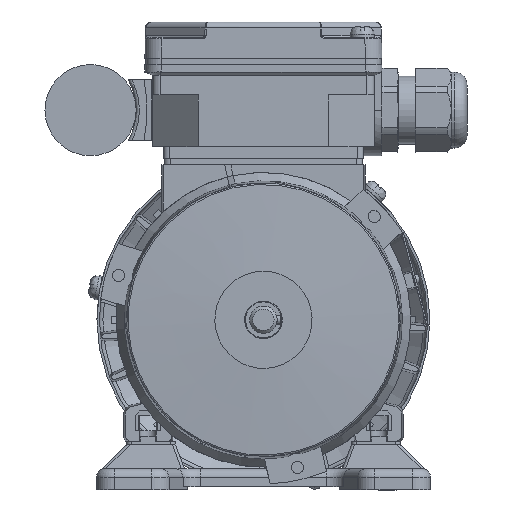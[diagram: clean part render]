
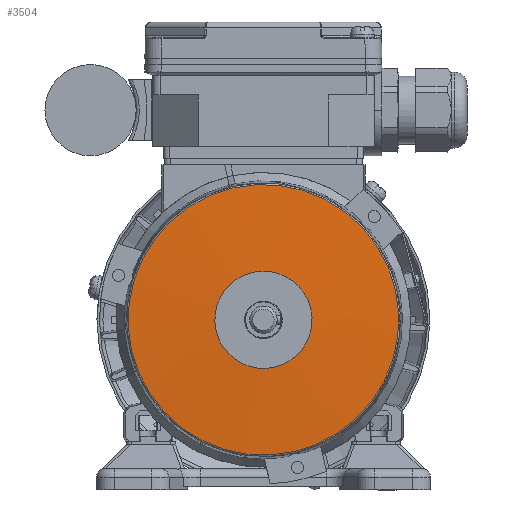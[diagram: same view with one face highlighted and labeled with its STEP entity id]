
A CAD part, left-side view. The second image highlights one B-rep face of the part: STEP entity #3504.
In plain terms, the highlighted conical face has half-angle 87.039 degrees and reference radius 16 mm.
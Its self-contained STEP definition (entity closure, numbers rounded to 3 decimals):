
#3504 = ADVANCED_FACE( '', ( #7741, #7742 ), #7743, .T. );
#7741 = FACE_OUTER_BOUND( '', #14526, .T. );
#7742 = FACE_BOUND( '', #14527, .T. );
#7743 = CONICAL_SURFACE( '', #14528, 16., 1.519 );
#14526 = EDGE_LOOP( '', ( #27139 ) );
#14527 = EDGE_LOOP( '', ( #27140 ) );
#14528 = AXIS2_PLACEMENT_3D( '', #27141, #27142, #27143 );
#27139 = ORIENTED_EDGE( '', *, *, #40347, .T. );
#27140 = ORIENTED_EDGE( '', *, *, #40348, .F. );
#27141 = CARTESIAN_POINT( '', ( 0., 1., 0. ) );
#27142 = DIRECTION( '', ( 0., 1., 0. ) );
#27143 = DIRECTION( '', ( 0., 0., 1. ) );
#40347 = EDGE_CURVE( '', #49224, #49224, #49225, .T. );
#40348 = EDGE_CURVE( '', #49226, #49226, #49227, .T. );
#49224 = VERTEX_POINT( '', #63386 );
#49225 = CIRCLE( '', #63387, 44.539 );
#49226 = VERTEX_POINT( '', #63388 );
#49227 = CIRCLE( '', #63389, 16. );
#63386 = CARTESIAN_POINT( '', ( 0., 2.476, -44.539 ) );
#63387 = AXIS2_PLACEMENT_3D( '', #75394, #75395, #75396 );
#63388 = CARTESIAN_POINT( '', ( 0., 1., -16. ) );
#63389 = AXIS2_PLACEMENT_3D( '', #75397, #75398, #75399 );
#75394 = CARTESIAN_POINT( '', ( 0., 2.476, 0. ) );
#75395 = DIRECTION( '', ( 0., -1., 0. ) );
#75396 = DIRECTION( '', ( 0., 0., -1. ) );
#75397 = CARTESIAN_POINT( '', ( 0., 1., 0. ) );
#75398 = DIRECTION( '', ( 0., -1., 0. ) );
#75399 = DIRECTION( '', ( 0., 0., -1. ) );
